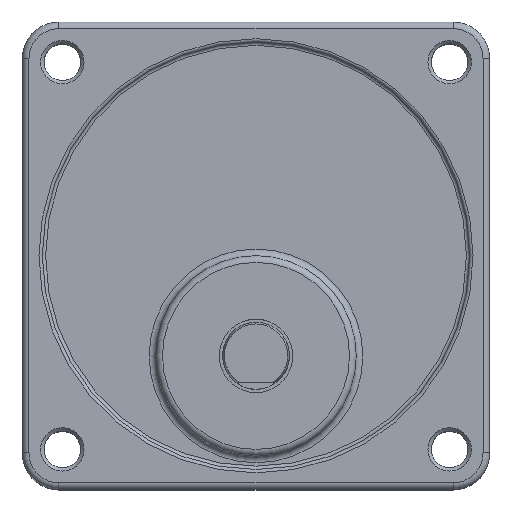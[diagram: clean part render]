
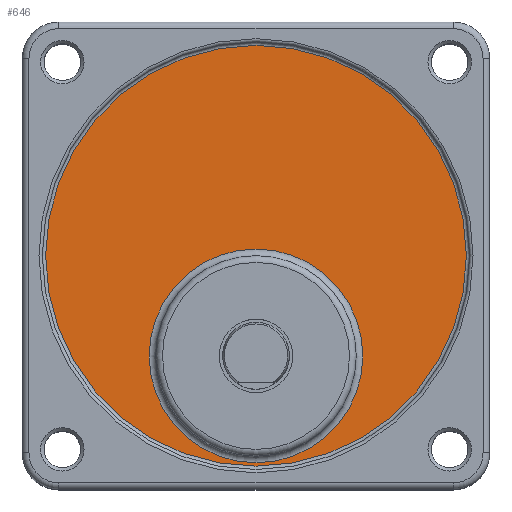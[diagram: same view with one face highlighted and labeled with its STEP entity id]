
A CAD part, top view. The second image highlights one B-rep face of the part: STEP entity #646.
In plain terms, the highlighted planar face has unit normal (0, 0, 1).
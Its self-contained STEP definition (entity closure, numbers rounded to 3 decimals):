
#595=CARTESIAN_POINT('',(51.,20.0,41.));
#596=VERTEX_POINT('',#595);
#597=CARTESIAN_POINT('',(35.,20.0,41.));
#598=DIRECTION('',(0.0,0.0,1.0));
#599=DIRECTION('',(-1.0,0.0,0.0));
#600=AXIS2_PLACEMENT_3D('',#597,#598,#599);
#601=CIRCLE('',#600,16.0);
#602=EDGE_CURVE('',#596,#596,#601,.T.);
#627=CARTESIAN_POINT('',(35.,35.0,41.));
#628=DIRECTION('',(0.0,0.0,-1.0));
#629=DIRECTION('',(-1.0,0.0,0.0));
#630=AXIS2_PLACEMENT_3D('',#627,#628,#629);
#631=PLANE('',#630);
#632=CARTESIAN_POINT('',(66.5,35.,41.));
#633=VERTEX_POINT('',#632);
#634=CARTESIAN_POINT('',(35.,35.0,41.));
#635=DIRECTION('',(0.0,0.0,-1.0));
#636=DIRECTION('',(-1.0,0.0,0.0));
#637=AXIS2_PLACEMENT_3D('',#634,#635,#636);
#638=CIRCLE('',#637,31.5);
#639=EDGE_CURVE('',#633,#633,#638,.T.);
#640=ORIENTED_EDGE('',*,*,#639,.F.);
#641=EDGE_LOOP('',(#640));
#642=FACE_OUTER_BOUND('',#641,.T.);
#643=ORIENTED_EDGE('',*,*,#602,.F.);
#644=EDGE_LOOP('',(#643));
#645=FACE_BOUND('',#644,.T.);
#646=ADVANCED_FACE('',(#642,#645),#631,.F.);
